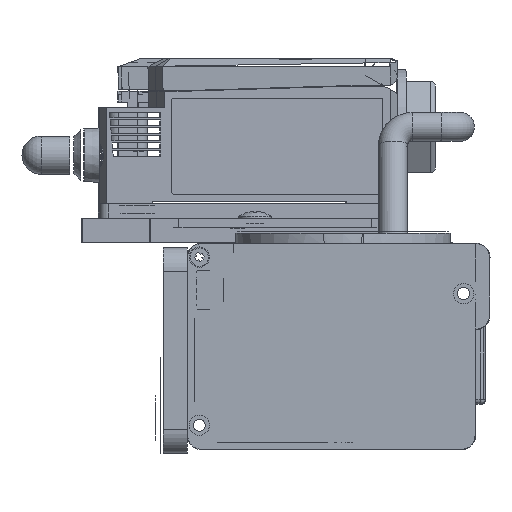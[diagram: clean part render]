
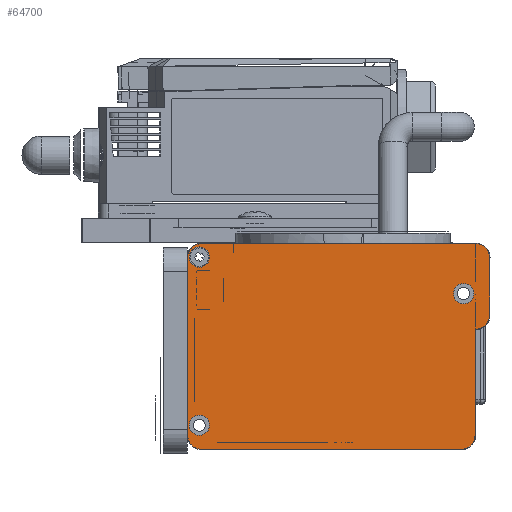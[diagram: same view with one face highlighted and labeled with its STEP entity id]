
A CAD part, front view. The second image highlights one B-rep face of the part: STEP entity #64700.
In plain terms, the highlighted planar face has unit normal (0, -1, 0).
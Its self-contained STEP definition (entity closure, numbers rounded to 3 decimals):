
#1653=FACE_BOUND('',#9406,.T.);
#1654=FACE_BOUND('',#9407,.T.);
#1655=FACE_BOUND('',#9408,.T.);
#3812=PLANE('',#68541);
#6459=FACE_OUTER_BOUND('',#9405,.T.);
#9405=EDGE_LOOP('',(#58635,#58636,#58637,#58638,#58639,#58640,#58641,#58642,
#58643,#58644));
#9406=EDGE_LOOP('',(#58645));
#9407=EDGE_LOOP('',(#58646));
#9408=EDGE_LOOP('',(#58647));
#10938=CIRCLE('',#68542,2.9);
#10939=CIRCLE('',#68543,2.9);
#10940=CIRCLE('',#68544,2.9);
#10941=CIRCLE('',#68545,2.9);
#10942=CIRCLE('',#68546,2.9);
#10943=CIRCLE('',#68547,2.1);
#10944=CIRCLE('',#68548,2.1);
#10945=CIRCLE('',#68549,2.1);
#17590=LINE('',#103903,#25650);
#17591=LINE('',#103907,#25651);
#17592=LINE('',#103911,#25652);
#17593=LINE('',#103915,#25653);
#17594=LINE('',#103918,#25654);
#25650=VECTOR('',#82291,12.);
#25651=VECTOR('',#82294,57.);
#25652=VECTOR('',#82297,37.);
#25653=VECTOR('',#82300,54.);
#25654=VECTOR('',#82303,22.102);
#32448=VERTEX_POINT('',#103899);
#32449=VERTEX_POINT('',#103900);
#32450=VERTEX_POINT('',#103902);
#32451=VERTEX_POINT('',#103904);
#32452=VERTEX_POINT('',#103906);
#32453=VERTEX_POINT('',#103908);
#32454=VERTEX_POINT('',#103910);
#32455=VERTEX_POINT('',#103912);
#32456=VERTEX_POINT('',#103914);
#32457=VERTEX_POINT('',#103916);
#32458=VERTEX_POINT('',#103919);
#32459=VERTEX_POINT('',#103921);
#32460=VERTEX_POINT('',#103923);
#42245=EDGE_CURVE('',#32448,#32449,#10938,.T.);
#42246=EDGE_CURVE('',#32449,#32450,#17590,.T.);
#42247=EDGE_CURVE('',#32450,#32451,#10939,.T.);
#42248=EDGE_CURVE('',#32451,#32452,#17591,.T.);
#42249=EDGE_CURVE('',#32452,#32453,#10940,.T.);
#42250=EDGE_CURVE('',#32453,#32454,#17592,.T.);
#42251=EDGE_CURVE('',#32454,#32455,#10941,.T.);
#42252=EDGE_CURVE('',#32455,#32456,#17593,.T.);
#42253=EDGE_CURVE('',#32456,#32457,#10942,.T.);
#42254=EDGE_CURVE('',#32457,#32448,#17594,.T.);
#42255=EDGE_CURVE('',#32458,#32458,#10943,.T.);
#42256=EDGE_CURVE('',#32459,#32459,#10944,.T.);
#42257=EDGE_CURVE('',#32460,#32460,#10945,.T.);
#58635=ORIENTED_EDGE('',*,*,#42245,.T.);
#58636=ORIENTED_EDGE('',*,*,#42246,.T.);
#58637=ORIENTED_EDGE('',*,*,#42247,.T.);
#58638=ORIENTED_EDGE('',*,*,#42248,.T.);
#58639=ORIENTED_EDGE('',*,*,#42249,.T.);
#58640=ORIENTED_EDGE('',*,*,#42250,.T.);
#58641=ORIENTED_EDGE('',*,*,#42251,.T.);
#58642=ORIENTED_EDGE('',*,*,#42252,.T.);
#58643=ORIENTED_EDGE('',*,*,#42253,.T.);
#58644=ORIENTED_EDGE('',*,*,#42254,.T.);
#58645=ORIENTED_EDGE('',*,*,#42255,.F.);
#58646=ORIENTED_EDGE('',*,*,#42256,.F.);
#58647=ORIENTED_EDGE('',*,*,#42257,.F.);
#64700=ADVANCED_FACE('',(#6459,#1653,#1654,#1655),#3812,.F.);
#68541=AXIS2_PLACEMENT_3D('',#103898,#82287,#82288);
#68542=AXIS2_PLACEMENT_3D('',#103901,#82289,#82290);
#68543=AXIS2_PLACEMENT_3D('',#103905,#82292,#82293);
#68544=AXIS2_PLACEMENT_3D('',#103909,#82295,#82296);
#68545=AXIS2_PLACEMENT_3D('',#103913,#82298,#82299);
#68546=AXIS2_PLACEMENT_3D('',#103917,#82301,#82302);
#68547=AXIS2_PLACEMENT_3D('',#103920,#82304,#82305);
#68548=AXIS2_PLACEMENT_3D('',#103922,#82306,#82307);
#68549=AXIS2_PLACEMENT_3D('',#103924,#82308,#82309);
#82287=DIRECTION('center_axis',(0.,1.,0.));
#82288=DIRECTION('ref_axis',(-1.,0.,0.));
#82289=DIRECTION('center_axis',(0.,-1.,0.));
#82290=DIRECTION('ref_axis',(0.707,0.,-0.707));
#82291=DIRECTION('',(0.,0.,1.));
#82292=DIRECTION('center_axis',(0.,-1.,0.));
#82293=DIRECTION('ref_axis',(0.707,0.,0.707));
#82294=DIRECTION('',(-1.,0.,0.));
#82295=DIRECTION('center_axis',(0.,-1.,0.));
#82296=DIRECTION('ref_axis',(-0.707,0.,0.707));
#82297=DIRECTION('',(0.,0.,-1.));
#82298=DIRECTION('center_axis',(0.,-1.,0.));
#82299=DIRECTION('ref_axis',(-0.707,0.,-0.707));
#82300=DIRECTION('',(1.,0.,0.));
#82301=DIRECTION('center_axis',(0.,-1.,0.));
#82302=DIRECTION('ref_axis',(0.707,0.,-0.707));
#82303=DIRECTION('',(0.,0.,1.));
#82304=DIRECTION('center_axis',(0.,-1.,0.));
#82305=DIRECTION('ref_axis',(-1.,0.,0.));
#82306=DIRECTION('center_axis',(0.,-1.,0.));
#82307=DIRECTION('ref_axis',(-1.,0.,0.));
#82308=DIRECTION('center_axis',(0.,-1.,0.));
#82309=DIRECTION('ref_axis',(-1.,0.,0.));
#103898=CARTESIAN_POINT('Origin',(-0.1,-52.,20.4));
#103899=CARTESIAN_POINT('',(29.8,-52.,24.002));
#103900=CARTESIAN_POINT('',(32.8,-52.,26.9));
#103901=CARTESIAN_POINT('Origin',(29.9,-52.,26.9));
#103902=CARTESIAN_POINT('',(32.8,-52.,38.9));
#103903=CARTESIAN_POINT('',(32.8,-52.,22.15));
#103904=CARTESIAN_POINT('',(29.9,-52.,41.8));
#103905=CARTESIAN_POINT('Origin',(29.9,-52.,38.9));
#103906=CARTESIAN_POINT('',(-27.1,-52.,41.8));
#103907=CARTESIAN_POINT('',(-15.1,-52.,41.8));
#103908=CARTESIAN_POINT('',(-30.,-52.,38.9));
#103909=CARTESIAN_POINT('Origin',(-27.1,-52.,38.9));
#103910=CARTESIAN_POINT('',(-30.,-52.,1.9));
#103911=CARTESIAN_POINT('',(-30.,-52.,9.65));
#103912=CARTESIAN_POINT('',(-27.1,-52.,-1.));
#103913=CARTESIAN_POINT('Origin',(-27.1,-52.,1.9));
#103914=CARTESIAN_POINT('',(26.9,-52.,-1.));
#103915=CARTESIAN_POINT('',(14.9,-52.,-1.));
#103916=CARTESIAN_POINT('',(29.8,-52.,1.9));
#103917=CARTESIAN_POINT('Origin',(26.9,-52.,1.9));
#103918=CARTESIAN_POINT('',(29.8,-52.,31.15));
#103919=CARTESIAN_POINT('',(-29.7,-52.,4.));
#103920=CARTESIAN_POINT('Origin',(-27.6,-52.,4.));
#103921=CARTESIAN_POINT('',(25.3,-52.,31.4));
#103922=CARTESIAN_POINT('Origin',(27.4,-52.,31.4));
#103923=CARTESIAN_POINT('',(-29.7,-52.,39.));
#103924=CARTESIAN_POINT('Origin',(-27.6,-52.,39.));
